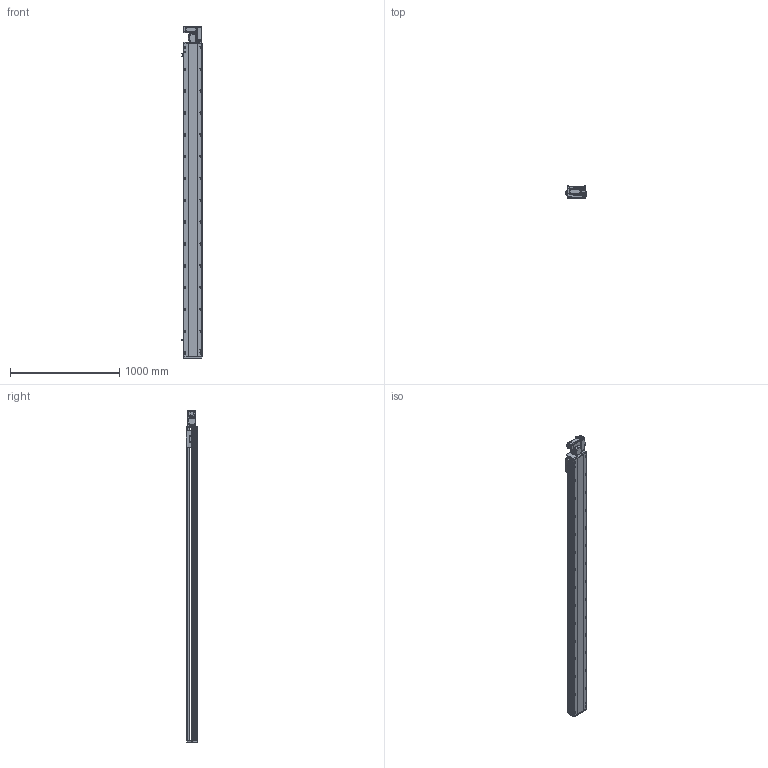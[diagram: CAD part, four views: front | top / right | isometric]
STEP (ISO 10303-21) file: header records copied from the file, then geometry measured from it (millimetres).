
FILE_DESCRIPTION (( 'STEP AP214' ), '1' );
FILE_NAME ('RTB17S-XX-2600-R-M40-C4.STEP', '2025-12-11T07:52:06', ( '' ), ( '' ), 'SwSTEP 2.0', 'SolidWorks 2018', '' );
FILE_SCHEMA (( 'AUTOMOTIVE_DESIGN' ));
Length unit declared in the file: millimetre
Products named in the file (14): RTB17S-L-007奻裔^RTB17S-XX-XX-R-M40-C4; RTB17S-R-々湍釱蚾饜-400W^RTB17S-XX-XX-R-M40-C4; RTB17S-XX-2600-R-M40-C4; RTB14-L-018P^RTB17S-R-々湍釱蚾饜-400W_RTB17S-XX-XX-R-M40-C4; RTB14-L-005P--轴承塑胶压盖^RTB17S-R-皮带座装配-400W_RTB17S-XX-XX-R-M40-C4; OMRON EE-SX672 传感器^RTB17S-XX-XX-R-M40-C4; RTB14-L-008-M20--萇儂啣^RTB17S-R-々湍釱蚾饜-400W_RTB17S-XX-XX-R-M40-C4; 400W侜督萇儂^RTB17S-XX-XX-R-M40-C4; RTB17S-L-014-T20--々湍釱^RTB17S-R-々湍釱蚾饜-400W_RTB17S-XX-XX-R-M40-C4; RTB17S-L-001耜醱啣^RTB17S-XX-XX-R-M40-C4; RTB14-L-017P^RTB17S-R-々湍釱蚾饜-400W_RTB17S-XX-XX-R-M40-C4; RTH13-BL-012覜茼え俋离^RTB17S-XX-XX-R-M40-C4; RTB17S-L-004佪裝蹟譫蟀諉釱^RTB17S-XX-XX-R-M40-C4; RTB17-R-011菁釱^RTB17S-XX-XX-R-M40-C4
Assembly tree (16 placements, depth 3):
  RTB17S-XX-2600-R-M40-C4
    RTB17-R-011菁釱^RTB17S-XX-XX-R-M40-C4
    RTB17S-L-007奻裔^RTB17S-XX-XX-R-M40-C4
    OMRON EE-SX672 传感器^RTB17S-XX-XX-R-M40-C4  x3
    RTB17S-L-001耜醱啣^RTB17S-XX-XX-R-M40-C4
    400W侜督萇儂^RTB17S-XX-XX-R-M40-C4
    RTB17S-L-004佪裝蹟譫蟀諉釱^RTB17S-XX-XX-R-M40-C4
    RTH13-BL-012覜茼え俋离^RTB17S-XX-XX-R-M40-C4
    RTB17S-R-々湍釱蚾饜-400W^RTB17S-XX-XX-R-M40-C4
      RTB17S-L-014-T20--々湍釱^RTB17S-R-々湍釱蚾饜-400W_RTB17S-XX-XX-R-M40-C4
      RTB14-L-005P--轴承塑胶压盖^RTB17S-R-皮带座装配-400W_RTB17S-XX-XX-R-M40-C4
      RTB14-L-008-M20--萇儂啣^RTB17S-R-々湍釱蚾饜-400W_RTB17S-XX-XX-R-M40-C4
      RTB14-L-017P^RTB17S-R-々湍釱蚾饜-400W_RTB17S-XX-XX-R-M40-C4  x2
      RTB14-L-018P^RTB17S-R-々湍釱蚾饜-400W_RTB17S-XX-XX-R-M40-C4
Bounding box: 183.5 x 108 x 3041 mm (x, y, z)
Volume: 25424834.4 mm3; surface area: 2920031.7 mm2
Topology: 15 solids, 15 shells, 2333 faces, 6519 edges, 4257 vertices
Faces by surface type: plane 1084, cylinder 801, bspline 301, cone 139, torus 8
Entity records: 68777 total; most frequent: CARTESIAN_POINT 19524, ORIENTED_EDGE 9882, DIRECTION 9116, EDGE_CURVE 4941, VERTEX_POINT 3245, AXIS2_PLACEMENT_3D 3175, VECTOR 2766, LINE 2766
